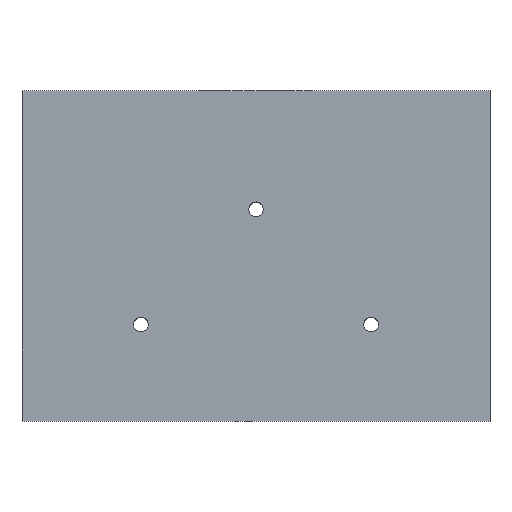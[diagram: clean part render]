
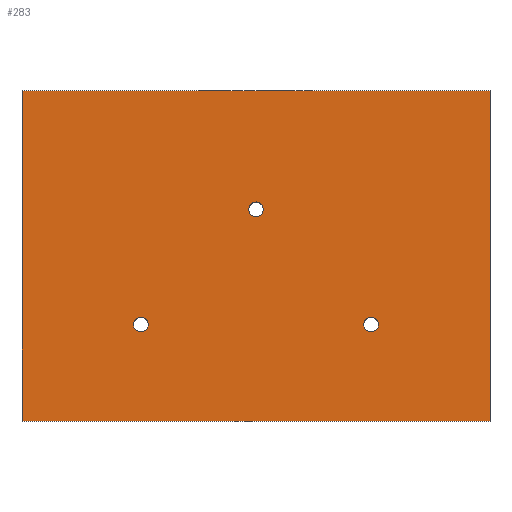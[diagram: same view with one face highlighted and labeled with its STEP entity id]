
A CAD part, top view. The second image highlights one B-rep face of the part: STEP entity #283.
In plain terms, the highlighted planar face has unit normal (0, 0, 1).
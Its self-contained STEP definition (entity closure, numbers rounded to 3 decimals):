
#7 = EDGE_LOOP ( 'NONE', ( #327, #745 ) ) ;
#36 = EDGE_CURVE ( 'NONE', #386, #227, #1036, .T. ) ;
#62 = CARTESIAN_POINT ( 'NONE',  ( 15.5, -9.25, 12.5 ) ) ;
#102 = DIRECTION ( 'NONE',  ( 1., 0., 0. ) ) ;
#108 = CARTESIAN_POINT ( 'NONE',  ( 0., 6.25, 12.5 ) ) ;
#109 = VERTEX_POINT ( 'NONE', #1213 ) ;
#145 = EDGE_CURVE ( 'NONE', #1498, #109, #1432, .T. ) ;
#149 = VECTOR ( 'NONE', #825, 1000. ) ;
#201 = VERTEX_POINT ( 'NONE', #242 ) ;
#227 = VERTEX_POINT ( 'NONE', #893 ) ;
#228 = CARTESIAN_POINT ( 'NONE',  ( 31.5, 22.25, 12.5 ) ) ;
#242 = CARTESIAN_POINT ( 'NONE',  ( -1., 6.25, 12.5 ) ) ;
#252 = DIRECTION ( 'NONE',  ( 0., 0., 1. ) ) ;
#280 = VECTOR ( 'NONE', #1089, 1000. ) ;
#283 = ADVANCED_FACE ( 'NONE', ( #701, #1526, #1440, #313 ), #553, .T. ) ;
#304 = CARTESIAN_POINT ( 'NONE',  ( 0., 6.25, 12.5 ) ) ;
#306 = AXIS2_PLACEMENT_3D ( 'NONE', #714, #1220, #102 ) ;
#313 = FACE_BOUND ( 'NONE', #1105, .T. ) ;
#323 = EDGE_CURVE ( 'NONE', #227, #550, #1069, .T. ) ;
#327 = ORIENTED_EDGE ( 'NONE', *, *, #394, .F. ) ;
#369 = DIRECTION ( 'NONE',  ( 0., 0., 1. ) ) ;
#385 = CARTESIAN_POINT ( 'NONE',  ( 14.5, -9.25, 12.5 ) ) ;
#386 = VERTEX_POINT ( 'NONE', #228 ) ;
#394 = EDGE_CURVE ( 'NONE', #1262, #431, #1259, .T. ) ;
#421 = EDGE_CURVE ( 'NONE', #1331, #386, #1078, .T. ) ;
#431 = VERTEX_POINT ( 'NONE', #500 ) ;
#449 = DIRECTION ( 'NONE',  ( 0., 0., 1. ) ) ;
#458 = CIRCLE ( 'NONE', #1273, 1. ) ;
#500 = CARTESIAN_POINT ( 'NONE',  ( -14.5, -9.25, 12.5 ) ) ;
#508 = CARTESIAN_POINT ( 'NONE',  ( -31.5, -22.25, 12.5 ) ) ;
#542 = ORIENTED_EDGE ( 'NONE', *, *, #36, .T. ) ;
#548 = EDGE_CURVE ( 'NONE', #550, #1331, #638, .T. ) ;
#550 = VERTEX_POINT ( 'NONE', #871 ) ;
#553 = PLANE ( 'NONE',  #930 ) ;
#599 = CARTESIAN_POINT ( 'NONE',  ( -31.5, 22.25, 12.5 ) ) ;
#622 = CARTESIAN_POINT ( 'NONE',  ( 1., 6.25, 12.5 ) ) ;
#638 = LINE ( 'NONE', #508, #1488 ) ;
#654 = EDGE_LOOP ( 'NONE', ( #1313, #1572 ) ) ;
#701 = FACE_BOUND ( 'NONE', #7, .T. ) ;
#714 = CARTESIAN_POINT ( 'NONE',  ( -15.5, -9.25, 12.5 ) ) ;
#737 = DIRECTION ( 'NONE',  ( 0., 0., 1. ) ) ;
#745 = ORIENTED_EDGE ( 'NONE', *, *, #1460, .F. ) ;
#772 = CIRCLE ( 'NONE', #1076, 1. ) ;
#791 = AXIS2_PLACEMENT_3D ( 'NONE', #304, #449, #1034 ) ;
#812 = DIRECTION ( 'NONE',  ( 0., 0., 1. ) ) ;
#825 = DIRECTION ( 'NONE',  ( -1., 0., 0. ) ) ;
#842 = ORIENTED_EDGE ( 'NONE', *, *, #421, .T. ) ;
#853 = ORIENTED_EDGE ( 'NONE', *, *, #323, .T. ) ;
#860 = CARTESIAN_POINT ( 'NONE',  ( 15.5, -9.25, 12.5 ) ) ;
#862 = DIRECTION ( 'NONE',  ( 1., 0., 0. ) ) ;
#871 = CARTESIAN_POINT ( 'NONE',  ( -31.5, -22.25, 12.5 ) ) ;
#876 = DIRECTION ( 'NONE',  ( 1., 0., 0. ) ) ;
#893 = CARTESIAN_POINT ( 'NONE',  ( -31.5, 22.25, 12.5 ) ) ;
#909 = AXIS2_PLACEMENT_3D ( 'NONE', #860, #252, #876 ) ;
#915 = EDGE_CURVE ( 'NONE', #109, #1498, #458, .T. ) ;
#930 = AXIS2_PLACEMENT_3D ( 'NONE', #1201, #812, #1183 ) ;
#937 = DIRECTION ( 'NONE',  ( 0., 0., 1. ) ) ;
#1022 = ORIENTED_EDGE ( 'NONE', *, *, #145, .F. ) ;
#1034 = DIRECTION ( 'NONE',  ( 1., 0., 0. ) ) ;
#1036 = LINE ( 'NONE', #599, #149 ) ;
#1069 = LINE ( 'NONE', #1567, #1170 ) ;
#1076 = AXIS2_PLACEMENT_3D ( 'NONE', #108, #737, #862 ) ;
#1078 = LINE ( 'NONE', #1118, #280 ) ;
#1089 = DIRECTION ( 'NONE',  ( 0., 1., 0. ) ) ;
#1105 = EDGE_LOOP ( 'NONE', ( #1022, #1144 ) ) ;
#1117 = VERTEX_POINT ( 'NONE', #622 ) ;
#1118 = CARTESIAN_POINT ( 'NONE',  ( 31.5, 22.25, 12.5 ) ) ;
#1140 = CIRCLE ( 'NONE', #1535, 1. ) ;
#1144 = ORIENTED_EDGE ( 'NONE', *, *, #915, .F. ) ;
#1170 = VECTOR ( 'NONE', #1456, 1000. ) ;
#1176 = EDGE_CURVE ( 'NONE', #1117, #201, #1320, .T. ) ;
#1183 = DIRECTION ( 'NONE',  ( 1., 0., 0. ) ) ;
#1201 = CARTESIAN_POINT ( 'NONE',  ( 0., 0., 12.5 ) ) ;
#1213 = CARTESIAN_POINT ( 'NONE',  ( 16.5, -9.25, 12.5 ) ) ;
#1220 = DIRECTION ( 'NONE',  ( 0., 0., 1. ) ) ;
#1259 = CIRCLE ( 'NONE', #306, 1. ) ;
#1262 = VERTEX_POINT ( 'NONE', #1494 ) ;
#1271 = ORIENTED_EDGE ( 'NONE', *, *, #548, .T. ) ;
#1273 = AXIS2_PLACEMENT_3D ( 'NONE', #62, #937, #1568 ) ;
#1313 = ORIENTED_EDGE ( 'NONE', *, *, #1477, .F. ) ;
#1320 = CIRCLE ( 'NONE', #791, 1. ) ;
#1331 = VERTEX_POINT ( 'NONE', #1340 ) ;
#1340 = CARTESIAN_POINT ( 'NONE',  ( 31.5, -22.25, 12.5 ) ) ;
#1374 = CARTESIAN_POINT ( 'NONE',  ( -15.5, -9.25, 12.5 ) ) ;
#1432 = CIRCLE ( 'NONE', #909, 1. ) ;
#1440 = FACE_BOUND ( 'NONE', #654, .T. ) ;
#1456 = DIRECTION ( 'NONE',  ( 0., -1., 0. ) ) ;
#1460 = EDGE_CURVE ( 'NONE', #431, #1262, #1140, .T. ) ;
#1477 = EDGE_CURVE ( 'NONE', #201, #1117, #772, .T. ) ;
#1488 = VECTOR ( 'NONE', #1516, 1000. ) ;
#1494 = CARTESIAN_POINT ( 'NONE',  ( -16.5, -9.25, 12.5 ) ) ;
#1498 = VERTEX_POINT ( 'NONE', #385 ) ;
#1516 = DIRECTION ( 'NONE',  ( 1., 0., 0. ) ) ;
#1526 = FACE_OUTER_BOUND ( 'NONE', #1586, .T. ) ;
#1535 = AXIS2_PLACEMENT_3D ( 'NONE', #1374, #369, #1614 ) ;
#1567 = CARTESIAN_POINT ( 'NONE',  ( -31.5, 22.25, 12.5 ) ) ;
#1568 = DIRECTION ( 'NONE',  ( 1., 0., 0. ) ) ;
#1572 = ORIENTED_EDGE ( 'NONE', *, *, #1176, .F. ) ;
#1586 = EDGE_LOOP ( 'NONE', ( #853, #1271, #842, #542 ) ) ;
#1614 = DIRECTION ( 'NONE',  ( 1., 0., 0. ) ) ;
